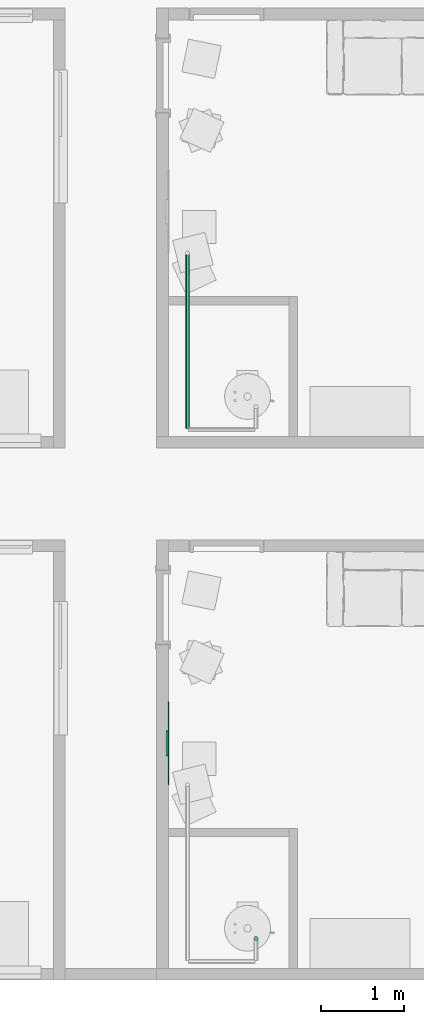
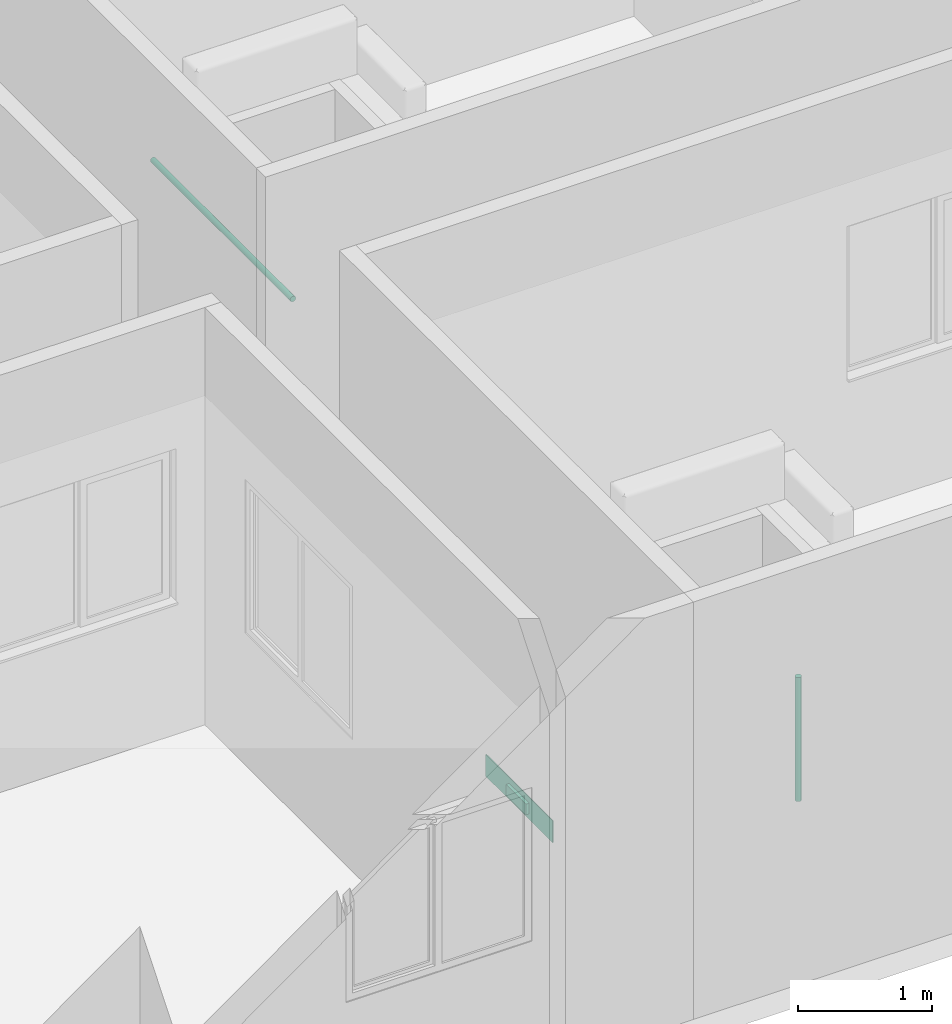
# One storey, part 38 of 72: 2 pipe segments, 1 air terminal.
"""IFC4 building model written with IfcOpenShell, lengths in centimetres."""

from ifc_helpers import new_model, entity, si_unit, converted_unit, derived_unit, direction, frame, origin, place, context, subcontext, project, spatial, arc, indexed_curve, outline, extrude, source, transform, mapped, material, constituent, constituent_set, type_object, type_shapes, element, save


model = new_model("IFC4")

# Units and contexts
model_context = context("Model", 3, precision=0.001, world=origin(), true_north=direction((6.123233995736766e-17, 1.0)))
body_context = subcontext(model_context, "Body", "Model", "MODEL_VIEW")
ifc_project = project(units=[si_unit("LENGTHUNIT", "METRE", prefix="CENTI"), si_unit("AREAUNIT", "SQUARE_METRE"), si_unit("VOLUMEUNIT", "CUBIC_METRE"), derived_unit("THERMALTRANSMITTANCEUNIT", [(si_unit("MASSUNIT", "GRAM", prefix="KILO"), 1), (si_unit("THERMODYNAMICTEMPERATUREUNIT", "KELVIN"), -1), (si_unit("TIMEUNIT", "SECOND"), -3)]), converted_unit("PLANEANGLEUNIT", "DEGREE", entity("IfcPlaneAngleMeasure", 0.017453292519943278), si_unit("PLANEANGLEUNIT", "RADIAN"), dimensions=[0, 0, 0, 0, 0, 0, 0]), derived_unit("MASSDENSITYUNIT", [(si_unit("MASSUNIT", "GRAM", prefix="KILO"), 1), (si_unit("LENGTHUNIT", "METRE"), -3)]), derived_unit("VAPORPERMEABILITYUNIT", [(si_unit("LENGTHUNIT", "METRE"), -1), (si_unit("TIMEUNIT", "SECOND"), 1)]), derived_unit("USERDEFINED", [(si_unit("MASSUNIT", "GRAM", prefix="KILO"), 1), (si_unit("TIMEUNIT", "SECOND"), -3), (si_unit("LENGTHUNIT", "METRE"), 3), (si_unit("ELECTRICCURRENTUNIT", "AMPERE"), -2)]), derived_unit("SPECIFICHEATCAPACITYUNIT", [(si_unit("THERMODYNAMICTEMPERATUREUNIT", "KELVIN"), -1), (si_unit("LENGTHUNIT", "METRE"), 2), (si_unit("TIMEUNIT", "SECOND"), -2)]), derived_unit("THERMALCONDUCTANCEUNIT", [(si_unit("MASSUNIT", "GRAM", prefix="KILO"), 1), (si_unit("THERMODYNAMICTEMPERATUREUNIT", "KELVIN"), -1), (si_unit("TIMEUNIT", "SECOND"), -3), (si_unit("LENGTHUNIT", "METRE"), 1)]), si_unit("PRESSUREUNIT", "PASCAL"), derived_unit("MODULUSOFELASTICITYUNIT", [(si_unit("MASSUNIT", "GRAM", prefix="KILO"), 1), (si_unit("LENGTHUNIT", "METRE"), -1), (si_unit("TIMEUNIT", "SECOND"), -2)]), derived_unit("THERMALEXPANSIONCOEFFICIENTUNIT", [(si_unit("THERMODYNAMICTEMPERATUREUNIT", "KELVIN"), -1)])], contexts=[model_context])

# Site, building, storey, space
site_placement = place(None, origin())
site = spatial("IfcSite", under=ifc_project, at=site_placement, Name="Default", CompositionType="ELEMENT")
building_placement = place(site_placement, origin())
building = spatial("IfcBuilding", under=site, at=building_placement, Name="IDS Escape Game Building", CompositionType="ELEMENT")
storey_placement = place(building_placement, frame((0.0, 0.0, 800.0)))
storey = spatial("IfcBuildingStorey", under=building, at=storey_placement, Name="02_Second Floor", CompositionType="ELEMENT", Elevation=800.0)
space_placement = place(storey_placement, origin())
space = spatial("IfcSpace", under=storey, at=space_placement, Name="77", CompositionType="ELEMENT", PredefinedType="NOTDEFINED")

# Air terminal
ifc_material_1 = material(Name="TB_LVC_referentievlak_00_gen_BERSnl", Category="BE Default")
ifc_constituent_1 = constituent(ifc_material_1, Name="TB_LVC_referentievlak_00_gen_BERSnl", Category="BE Default", fraction=0.00014157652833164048)
ifc_material_2 = material(Name="ARC_FME.h2_staal_00_gen_BERSnl", Category="h - metaal")
ifc_constituent_2 = constituent(ifc_material_2, Name="ARC_FME.h2_staal_00_gen_BERSnl", Category="h - metaal", fraction=0.9998584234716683)
ifc_constituent_set_1 = constituent_set(constituents=[ifc_constituent_1, ifc_constituent_2])
ifc_constituent_3 = constituent(ifc_material_1, Name="BE Referentievlak", Category="BE Default", fraction=0.00014157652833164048)
ifc_constituent_4 = constituent(ifc_material_2, Name="Terminals", Category="h - metaal", fraction=0.9998584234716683)
ifc_constituent_set_2 = constituent_set(constituents=[ifc_constituent_3, ifc_constituent_4])
air_terminal_type = type_object("IfcAirTerminalType", Name="TB_57_AIR_FB_aanzuigrooster - 1 rechthoekige aansluiting - calculated flow_gen_BERSnl:Air Terminal - Exhaust", PredefinedType="GRILLE", material=ifc_constituent_set_2)
shared_shape = source(origin(), body_context, "Body", "SweptSolid", [
    extrude(outline(indexed_curve([(-0.5, -2.0290176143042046e-15), (6.8507733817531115e-16, -0.5000000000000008), (0.5, 2.0290176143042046e-15), (-5.361679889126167e-16, 0.49999999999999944)], segments=[arc(1, 2, 3), arc(3, 4, 1)], self_intersect=False)), frame((0.0, 0.0, 0.0), z_axis=(1.7453292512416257e-05, 0.0, 1.0), x_axis=(0.0, 1.0, 0.0)), (0.0, 0.0, 1.0), 0.09999999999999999),
    extrude(outline(indexed_curve([(-14.900000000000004, -4.9), (14.900000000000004, -4.9), (14.900000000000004, 4.9), (-14.900000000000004, 4.9), (-14.900000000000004, -4.9)], self_intersect=False)), frame((-4.886921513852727e-05, 0.0, -2.7999999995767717)), (0.0, 0.0, 1.0), 2.7999999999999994),
    extrude(outline(indexed_curve([(-50.0, -10.0), (50.0, -10.0), (50.0, 10.0), (-50.0, 10.0), (-50.0, -10.0)], self_intersect=False)), frame((0.0, 0.0, 0.0), z_axis=(0.0, 0.0, 1.0), x_axis=(-1.0, 0.0, 0.0)), (0.0, 0.0, 1.0), 0.6999999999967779),
])
type_shapes(air_terminal_type, [shared_shape])
air_terminal_placement = place(space_placement, frame((4435.0, 283.0, 24.0), z_axis=(1.0, 0.0, 0.0), x_axis=(0.0, 1.0, 0.0)))
element("IfcAirTerminal", 1, at=air_terminal_placement, inside=space, type_object=air_terminal_type, material=ifc_constituent_set_1, Name="TB_57_AIR_FB_aanzuigrooster - 1 rechthoekige aansluiting - calculated flow_gen_BERSnl:Air Terminal - Exhaust", ObjectType="TB_57_AIR_FB_aanzuigrooster - 1 rechthoekige aansluiting - calculated flow_gen_BERSnl:Air Terminal - Exhaust", PredefinedType="GRILLE", context=body_context, shape_type="MappedRepresentation", body=[
    mapped(shared_shape, transform((0.0, 0.0, 0.0), scale=1.0)),
])

# Pipe segments
pipe_segment_type = type_object("IfcPipeSegmentType", Name="Pipe Types:Piping Aluminum", PredefinedType="NOTDEFINED")
pipe_segment_1_placement = place(storey_placement, origin())
element("IfcPipeSegment", 2, at=pipe_segment_1_placement, inside=storey, type_object=pipe_segment_type, Name="Pipe Types:Piping Aluminum", ObjectType="Pipe Types:Piping Aluminum", PredefinedType="NOTDEFINED", context=body_context, shape_type="SweptSolid", body=[
    extrude(outline(indexed_curve([(2.4130000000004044, 0.0), (1.7062486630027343, 1.7062486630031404), (0.0, 2.412999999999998), (-1.7062486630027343, 1.7062486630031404), (-2.4130000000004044, 6.767919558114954e-15), (-1.7062486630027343, -1.7062486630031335), (0.0, -2.412999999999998), (1.7062486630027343, -1.706248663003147)], segments=[arc(1, 2, 3), arc(3, 4, 5), arc(5, 6, 7), arc(7, 8, 1)], self_intersect=False)), frame((4540.150000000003, 48.90000000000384, 128.0), z_axis=(0.0, 0.0, 1.0), x_axis=(-1.0, 0.0, 0.0)), (0.0, 0.0, 1.0), 112.90000000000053),
])
pipe_segment_2_placement = place(storey_placement, origin())
element("IfcPipeSegment", 3, at=pipe_segment_2_placement, inside=storey, type_object=pipe_segment_type, Name="Pipe Types:Piping Aluminum", ObjectType="Pipe Types:Piping Aluminum", PredefinedType="NOTDEFINED", context=body_context, shape_type="SweptSolid", body=[
    extrude(outline(indexed_curve([(2.4130000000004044, 0.0), (1.7062486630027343, 1.7062486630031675), (0.0, 2.412999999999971), (-1.7062486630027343, 1.7062486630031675), (-2.4130000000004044, 0.0), (-1.7062486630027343, -1.7062486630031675), (0.0, -2.412999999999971), (1.7062486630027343, -1.7062486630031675)], segments=[arc(1, 2, 3), arc(3, 4, 5), arc(5, 6, 7), arc(7, 8, 1)], self_intersect=False)), frame((4458.046716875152, 660.3648279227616, 242.0), z_axis=(0.0, 1.0, 0.0), x_axis=(1.0, 0.0, 0.0)), (0.0, 0.0, 1.0), 208.80000000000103),
])

save(model, "model.ifc")
